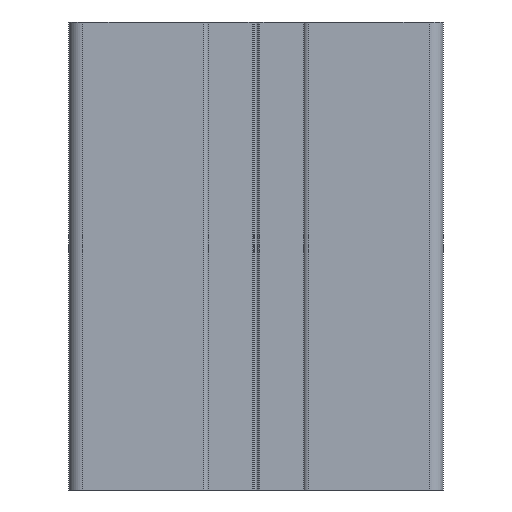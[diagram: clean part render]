
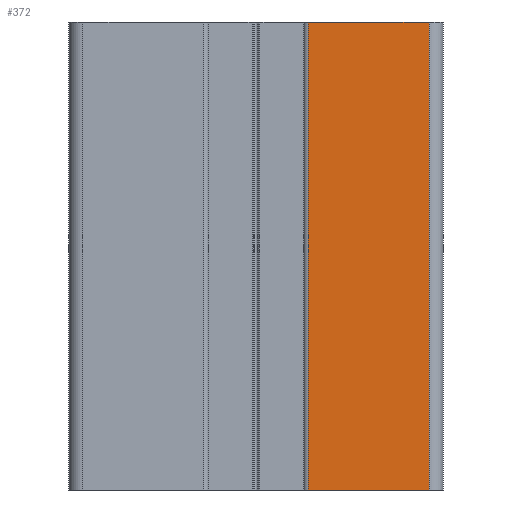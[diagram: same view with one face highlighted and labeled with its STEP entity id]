
A CAD part, front view. The second image highlights one B-rep face of the part: STEP entity #372.
In plain terms, the highlighted planar face has unit normal (0, -1, 0).
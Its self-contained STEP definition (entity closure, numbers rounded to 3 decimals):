
#372=ADVANCED_FACE('',(#790),#791,.F.);
#790=FACE_OUTER_BOUND('',#1249,.T.);
#791=PLANE('',#1250);
#1249=EDGE_LOOP('',(#2333,#2334,#2335,#2336));
#1250=AXIS2_PLACEMENT_3D('',#2337,#2338,#2339);
#2333=ORIENTED_EDGE('',*,*,#3060,.T.);
#2334=ORIENTED_EDGE('',*,*,#3199,.F.);
#2335=ORIENTED_EDGE('',*,*,#3300,.F.);
#2336=ORIENTED_EDGE('',*,*,#3278,.T.);
#2337=CARTESIAN_POINT('',(25.6,0.0,50.0));
#2338=DIRECTION('',(0.0,1.0,0.0));
#2339=DIRECTION('',(0.0,0.0,1.0));
#3060=EDGE_CURVE('',#3642,#3818,#3820,.T.);
#3199=EDGE_CURVE('',#4016,#3818,#4018,.T.);
#3278=EDGE_CURVE('',#4115,#3642,#4116,.T.);
#3300=EDGE_CURVE('',#4115,#4016,#4145,.T.);
#3642=VERTEX_POINT('',#4576);
#3818=VERTEX_POINT('',#4800);
#3820=LINE('',#4802,#4803);
#4016=VERTEX_POINT('',#5081);
#4018=LINE('',#5083,#5084);
#4115=VERTEX_POINT('',#5210);
#4116=LINE('',#5211,#5212);
#4145=LINE('',#5250,#5251);
#4576=CARTESIAN_POINT('',(25.6,0.0,0.0));
#4800=CARTESIAN_POINT('',(38.5,0.0,0.0));
#4802=CARTESIAN_POINT('',(25.6,0.0,0.0));
#4803=VECTOR('',#5786,1.0);
#5081=CARTESIAN_POINT('',(38.5,0.0,50.0));
#5083=CARTESIAN_POINT('',(38.5,0.0,50.0));
#5084=VECTOR('',#5917,1.0);
#5210=CARTESIAN_POINT('',(25.6,0.0,50.0));
#5211=CARTESIAN_POINT('',(25.6,0.0,50.0));
#5212=VECTOR('',#6001,1.0);
#5250=CARTESIAN_POINT('',(25.6,0.0,50.0));
#5251=VECTOR('',#6026,1.0);
#5786=DIRECTION('',(1.0,0.0,0.0));
#5917=DIRECTION('',(0.0,0.0,-1.0));
#6001=DIRECTION('',(0.0,0.0,-1.0));
#6026=DIRECTION('',(1.0,0.0,0.0));
